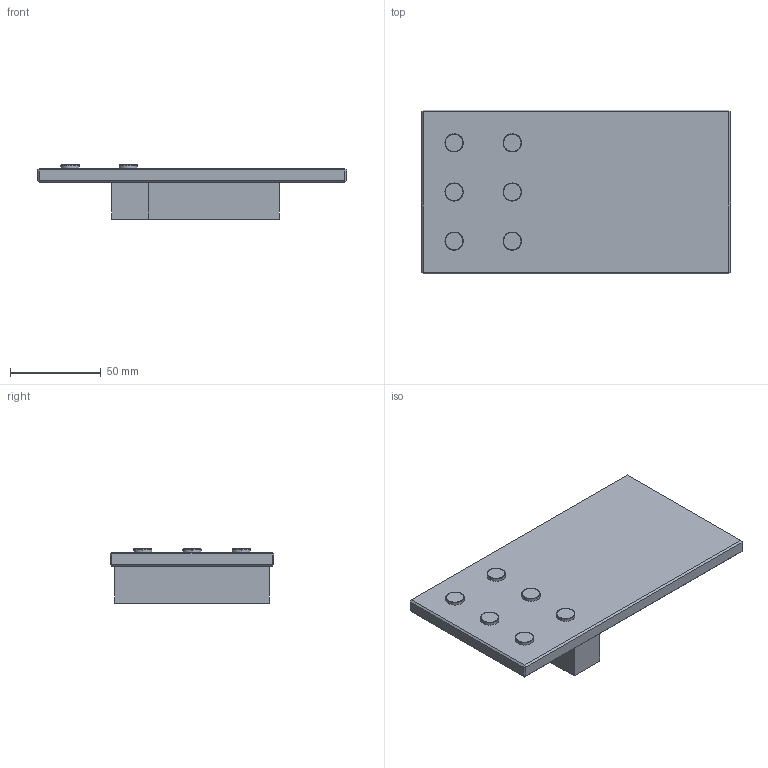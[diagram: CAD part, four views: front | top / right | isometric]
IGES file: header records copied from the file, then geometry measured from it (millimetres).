
Start section: SolidWorks IGES file using analytic representation for surfaces
Global section: file name: G:\Projects\New project\For Marketing\IGS\IGS\2015-12-11\496050002VW.IGS; native system: SolidWorks 2010; preprocessor: SolidWorks 2010; author: linda; date: 151211.112358; units: millimetre
Bounding box: 170 x 90 x 29.75 mm (x, y, z)
Surface area: 44535.4 mm2 (no closed solid volume)
Topology: 0 solids, 0 shells, 184 faces, 1850 edges, 1850 vertices
Faces by surface type: revolution 100, bspline 84
